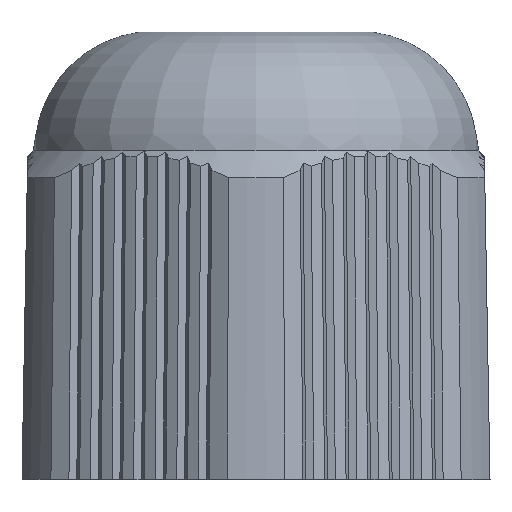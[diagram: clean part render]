
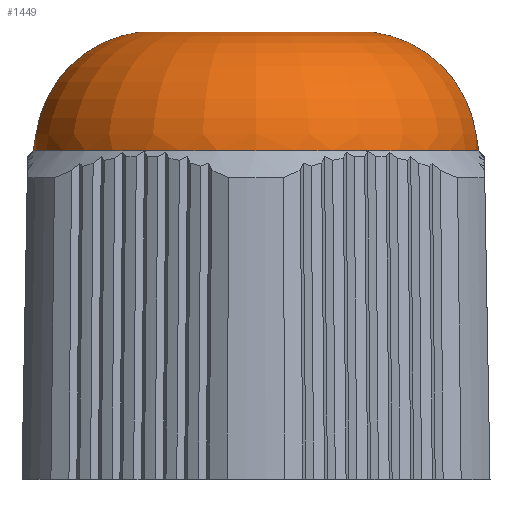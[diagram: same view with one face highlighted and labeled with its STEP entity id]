
A CAD part, top view. The second image highlights one B-rep face of the part: STEP entity #1449.
In plain terms, the highlighted toroidal (fillet/blend) face has major radius 4.15 mm and minor radius 4.8 mm.
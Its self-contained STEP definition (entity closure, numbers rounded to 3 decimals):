
#213 = CARTESIAN_POINT ( 'NONE',  ( 0., 13.2, 0. ) ) ;
#695 = DIRECTION ( 'NONE',  ( 0., 0., -1. ) ) ;
#763 = CIRCLE ( 'NONE', #3271, 4.708 ) ;
#1229 = DIRECTION ( 'NONE',  ( 0., -1., 0. ) ) ;
#1418 = AXIS2_PLACEMENT_3D ( 'NONE', #213, #2400, #2326 ) ;
#1449 = ADVANCED_FACE ( 'NONE', ( #6666, #5614 ), #5067, .T. ) ;
#1714 = ORIENTED_EDGE ( 'NONE', *, *, #5474, .T. ) ;
#1790 = VERTEX_POINT ( 'NONE', #3478 ) ;
#1898 = VERTEX_POINT ( 'NONE', #4094 ) ;
#2326 = DIRECTION ( 'NONE',  ( 0., 0., -1. ) ) ;
#2384 = EDGE_LOOP ( 'NONE', ( #1714 ) ) ;
#2400 = DIRECTION ( 'NONE',  ( 0., -1., 0. ) ) ;
#2449 = CARTESIAN_POINT ( 'NONE',  ( 0., 17.967, 0. ) ) ;
#3271 = AXIS2_PLACEMENT_3D ( 'NONE', #2449, #5757, #4606 ) ;
#3478 = CARTESIAN_POINT ( 'NONE',  ( 0., 17.967, -4.708 ) ) ;
#4094 = CARTESIAN_POINT ( 'NONE',  ( 0., 13.2, -8.95 ) ) ;
#4137 = EDGE_CURVE ( 'NONE', #1898, #1898, #5314, .T. ) ;
#4606 = DIRECTION ( 'NONE',  ( 0., 0., -1. ) ) ;
#4775 = EDGE_LOOP ( 'NONE', ( #6884 ) ) ;
#5067 = TOROIDAL_SURFACE ( 'NONE', #6452, 4.15, 4.8 ) ;
#5314 = CIRCLE ( 'NONE', #1418, 8.95 ) ;
#5474 = EDGE_CURVE ( 'NONE', #1790, #1790, #763, .T. ) ;
#5614 = FACE_OUTER_BOUND ( 'NONE', #4775, .T. ) ;
#5651 = CARTESIAN_POINT ( 'NONE',  ( 0., 13.2, 0. ) ) ;
#5757 = DIRECTION ( 'NONE',  ( 0., -1., 0. ) ) ;
#6452 = AXIS2_PLACEMENT_3D ( 'NONE', #5651, #1229, #695 ) ;
#6666 = FACE_OUTER_BOUND ( 'NONE', #2384, .T. ) ;
#6884 = ORIENTED_EDGE ( 'NONE', *, *, #4137, .F. ) ;
